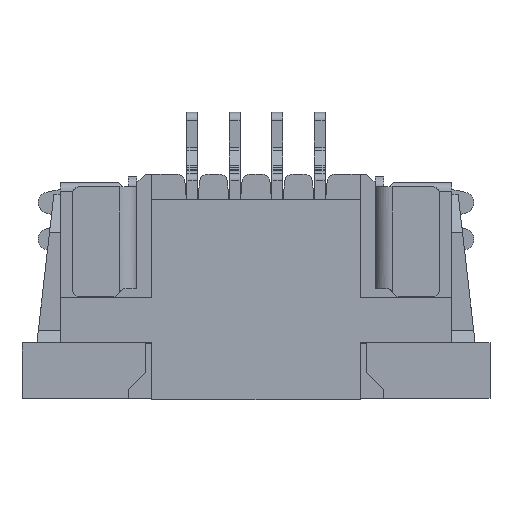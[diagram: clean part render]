
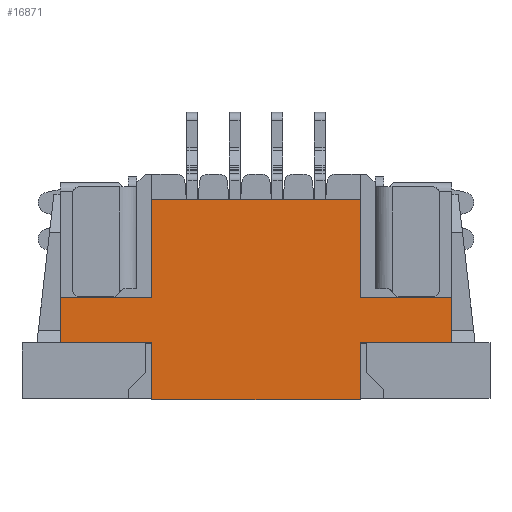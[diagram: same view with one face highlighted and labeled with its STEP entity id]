
A CAD part, top view. The second image highlights one B-rep face of the part: STEP entity #16871.
In plain terms, the highlighted planar face has unit normal (0, 0, 1).
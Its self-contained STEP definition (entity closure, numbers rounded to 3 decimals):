
#12828=DIRECTION('',(0.,-1.,0.));
#12829=VECTOR('',#12828,1.07);
#12830=CARTESIAN_POINT('',(-2.9,2.37,2.48));
#12831=LINE('',#12830,#12829);
#12990=DIRECTION('',(-1.,0.,0.));
#12991=VECTOR('',#12990,2.15);
#12992=CARTESIAN_POINT('',(-2.9,1.3,2.48));
#12993=LINE('',#12992,#12991);
#13018=DIRECTION('',(-1.,0.,0.));
#13019=VECTOR('',#13018,2.15);
#13020=CARTESIAN_POINT('',(-9.95,1.3,2.48));
#13021=LINE('',#13020,#13019);
#13346=DIRECTION('',(0.,-1.,0.));
#13347=VECTOR('',#13346,2.3);
#13348=CARTESIAN_POINT('',(-5.05,4.67,2.48));
#13349=LINE('',#13348,#13347);
#13370=DIRECTION('',(-1.,0.,0.));
#13371=VECTOR('',#13370,2.15);
#13372=CARTESIAN_POINT('',(-2.9,2.37,2.48));
#13373=LINE('',#13372,#13371);
#13374=DIRECTION('',(-1.,0.,0.));
#13375=VECTOR('',#13374,2.15);
#13376=CARTESIAN_POINT('',(-9.95,2.37,2.48));
#13377=LINE('',#13376,#13375);
#13378=DIRECTION('',(0.,-1.,0.));
#13379=VECTOR('',#13378,2.3);
#13380=CARTESIAN_POINT('',(-9.95,4.67,2.48));
#13381=LINE('',#13380,#13379);
#13382=DIRECTION('',(1.,0.,0.));
#13383=VECTOR('',#13382,4.9);
#13384=CARTESIAN_POINT('',(-9.95,4.67,2.48));
#13385=LINE('',#13384,#13383);
#13455=DIRECTION('',(0.,1.,0.));
#13456=VECTOR('',#13455,1.07);
#13457=CARTESIAN_POINT('',(-12.1,1.3,2.48));
#13458=LINE('',#13457,#13456);
#14561=DIRECTION('',(0.,-1.,0.));
#14562=VECTOR('',#14561,1.33);
#14563=CARTESIAN_POINT('',(-5.05,1.3,2.48));
#14564=LINE('',#14563,#14562);
#14573=DIRECTION('',(-1.,0.,0.));
#14574=VECTOR('',#14573,4.9);
#14575=CARTESIAN_POINT('',(-5.05,-0.03,2.48));
#14576=LINE('',#14575,#14574);
#15005=DIRECTION('',(0.,1.,0.));
#15006=VECTOR('',#15005,1.33);
#15007=CARTESIAN_POINT('',(-9.95,-0.03,2.48));
#15008=LINE('',#15007,#15006);
#15259=CARTESIAN_POINT('',(-5.05,4.67,2.48));
#15260=VERTEX_POINT('',#15259);
#15261=CARTESIAN_POINT('',(-5.05,2.37,2.48));
#15262=VERTEX_POINT('',#15261);
#15263=CARTESIAN_POINT('',(-2.9,2.37,2.48));
#15264=VERTEX_POINT('',#15263);
#15301=CARTESIAN_POINT('',(-5.05,-0.03,2.48));
#15302=VERTEX_POINT('',#15301);
#15303=CARTESIAN_POINT('',(-5.05,1.3,2.48));
#15304=VERTEX_POINT('',#15303);
#15305=CARTESIAN_POINT('',(-2.9,1.3,2.48));
#15306=VERTEX_POINT('',#15305);
#15387=CARTESIAN_POINT('',(-9.95,1.3,2.48));
#15388=VERTEX_POINT('',#15387);
#15389=CARTESIAN_POINT('',(-12.1,1.3,2.48));
#15390=VERTEX_POINT('',#15389);
#15557=CARTESIAN_POINT('',(-9.95,-0.03,2.48));
#15558=VERTEX_POINT('',#15557);
#15589=CARTESIAN_POINT('',(-9.95,4.67,2.48));
#15590=VERTEX_POINT('',#15589);
#15591=CARTESIAN_POINT('',(-9.95,2.37,2.48));
#15592=VERTEX_POINT('',#15591);
#15593=CARTESIAN_POINT('',(-12.1,2.37,2.48));
#15594=VERTEX_POINT('',#15593);
#16845=CARTESIAN_POINT('',(-2.629,5.07,
2.48));
#16846=DIRECTION('',(0.,0.,1.));
#16847=DIRECTION('',(1.,0.,0.));
#16848=AXIS2_PLACEMENT_3D('',#16845,#16846,#16847);
#16849=PLANE('',#16848);
#16851=ORIENTED_EDGE('',*,*,#16850,.T.);
#16852=ORIENTED_EDGE('',*,*,#16822,.T.);
#16853=ORIENTED_EDGE('',*,*,#16840,.F.);
#16854=ORIENTED_EDGE('',*,*,#16155,.T.);
#16855=ORIENTED_EDGE('',*,*,#16363,.T.);
#16857=ORIENTED_EDGE('',*,*,#16856,.T.);
#16859=ORIENTED_EDGE('',*,*,#16858,.T.);
#16861=ORIENTED_EDGE('',*,*,#16860,.T.);
#16862=ORIENTED_EDGE('',*,*,#16387,.T.);
#16864=ORIENTED_EDGE('',*,*,#16863,.T.);
#16866=ORIENTED_EDGE('',*,*,#16865,.F.);
#16868=ORIENTED_EDGE('',*,*,#16867,.F.);
#16869=EDGE_LOOP('',(#16851,#16852,#16853,#16854,#16855,#16857,#16859,#16861,
#16862,#16864,#16866,#16868));
#16870=FACE_OUTER_BOUND('',#16869,.F.);
#16871=ADVANCED_FACE('',(#16870),#16849,.T.);
#16155=EDGE_CURVE('',#15264,#15306,#12831,.T.);
#16363=EDGE_CURVE('',#15306,#15304,#12993,.T.);
#16387=EDGE_CURVE('',#15388,#15390,#13021,.T.);
#16822=EDGE_CURVE('',#15260,#15262,#13349,.T.);
#16840=EDGE_CURVE('',#15264,#15262,#13373,.T.);
#16850=EDGE_CURVE('',#15590,#15260,#13385,.T.);
#16856=EDGE_CURVE('',#15304,#15302,#14564,.T.);
#16858=EDGE_CURVE('',#15302,#15558,#14576,.T.);
#16860=EDGE_CURVE('',#15558,#15388,#15008,.T.);
#16863=EDGE_CURVE('',#15390,#15594,#13458,.T.);
#16865=EDGE_CURVE('',#15592,#15594,#13377,.T.);
#16867=EDGE_CURVE('',#15590,#15592,#13381,.T.);
